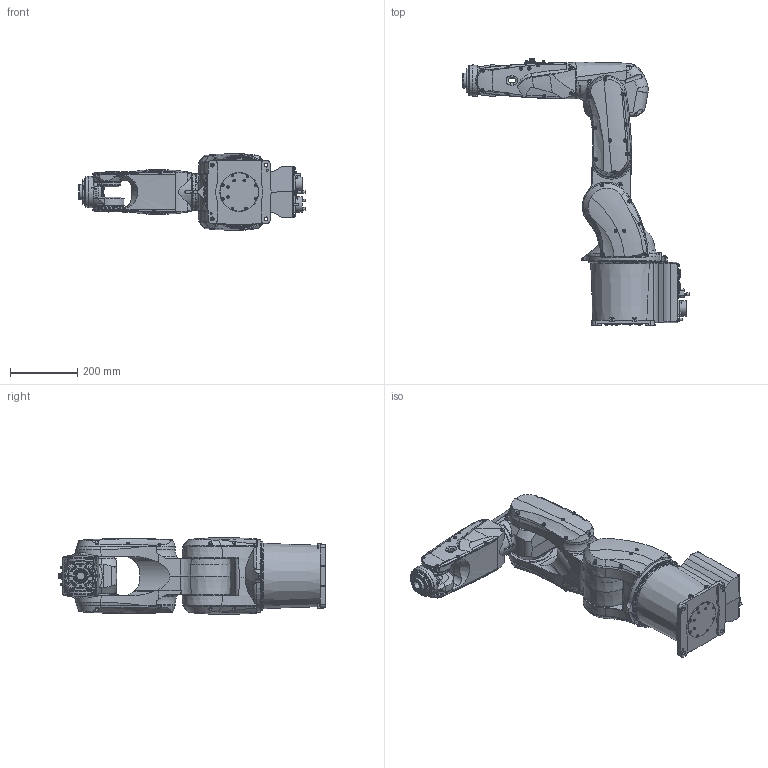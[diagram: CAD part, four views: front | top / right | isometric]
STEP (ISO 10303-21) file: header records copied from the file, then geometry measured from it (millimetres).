
FILE_DESCRIPTION(/* description */ ('STEP AP203'),/* implementation_level */ '2;1');
FILE_NAME(/* name */ 'MZ07F-01',/* time_stamp */ '2025-09-24T08:02:26+02:00',/* author */ ('License CC BY-ND 4.0'),/* organization */ ('CADENAS'),/* preprocessor_version */ 'ST-DEVELOPER v19.3',/* originating_system */ 'PARTsolutions',/* authorisation */ ' ');
FILE_SCHEMA (('CONFIG_CONTROL_DESIGN'));
Products named in the file (8): MZ07F-01; MZ07F-01b; MZ07F-01j1; MZ07F-01j2; MZ07F-01_j3; MZ07F-01j4; MZ07F-01_j5; MZ07F-01_j6
Assembly tree (7 placements, depth 2):
  MZ07F-01
    MZ07F-01b
    MZ07F-01j1
    MZ07F-01j2
    MZ07F-01_j3
    MZ07F-01j4
    MZ07F-01_j5
    MZ07F-01_j6
Bounding box: 674.4 x 795.5 x 230 mm (x, y, z)
Volume: 25384548.3 mm3; surface area: 1281480.3 mm2
Topology: 7 solids, 9 shells, 3503 faces, 8467 edges, 5390 vertices
Faces by surface type: plane 2140, cylinder 638, cone 500, torus 197, bspline 19, sphere 9
Full cylindrical faces by diameter (mm): 3.077 x7, 3.24 x2, 3.242 x16, 3.8 x4, 4.13 x4, 4.134 x10, 4.917 x4, 5 x2, 5.5 x78, 5.7 x4, 6 x34, 6.05 x1, 6.2 x1, 6.4 x12, 6.5 x10, 7 x47, 7.5 x4, 7.6 x12, 8 x43, 8.32 x3, 9 x8, 9.8 x3, 10 x8, 10.8 x3, 11 x6, 12 x3, 13 x1, 15 x1, 15.2 x1, 15.8 x1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
Entity records: 114618 total; most frequent: CARTESIAN_POINT 21704, DIRECTION 15771, ORIENTED_EDGE 15068, EDGE_CURVE 7534, AXIS2_PLACEMENT_3D 5806, VERTEX_POINT 5250, FACE_BOUND 4738, EDGE_LOOP 4668
